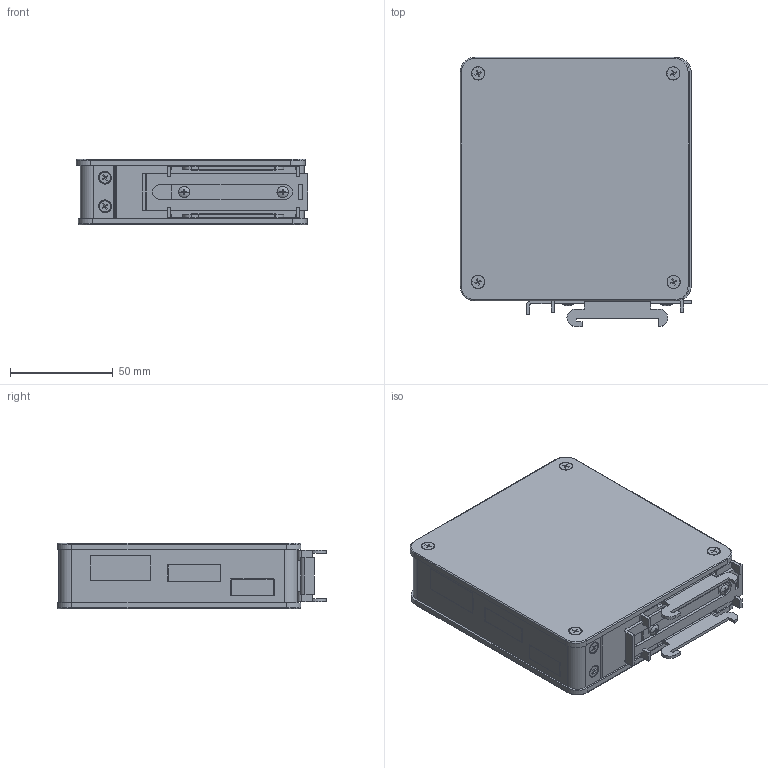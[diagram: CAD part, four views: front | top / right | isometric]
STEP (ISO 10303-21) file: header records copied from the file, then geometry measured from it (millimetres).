
FILE_DESCRIPTION (( 'STEP AP214' ), '1' );
FILE_NAME ('儂眊6蚾饜极.STEP', '2022-04-12T08:47:44', ( 'Windows User' ), ( 'P R C' ), 'SwSTEP 2.0', 'SolidWorks 2019', '' );
FILE_SCHEMA (( 'AUTOMOTIVE_DESIGN' ));
Length unit declared in the file: millimetre
Products named in the file (31): ____3.STEP; GB__T818-2000______________M3__6.STEP; ________M3.STEP; X1____.STEP; ____3.1.STEP; ____5____.STEP; GB__T819__2-1986______________23__5.STEP; ____________.STEP; 儂眊6蚾饜极.STEP; ____a.STEP; 儂眊6蚾饜极
Assembly tree (22 placements, depth 4):
  ____3.STEP
  GB__T818-2000______________M3__6.STEP
  ________M3.STEP
  ____5____.STEP
  GB__T819__2-1986______________23__5.STEP
Bounding box: 112.7 x 131 x 32 mm (x, y, z)
Volume: 52378.7 mm3; surface area: 112363.4 mm2
Topology: 39 solids, 39 shells, 1316 faces, 3251 edges, 2042 vertices
Faces by surface type: plane 831, cylinder 241, cone 128, torus 88, sphere 28
Entity records: 25262 total; most frequent: DIRECTION 4221, CARTESIAN_POINT 4212, ORIENTED_EDGE 4118, EDGE_CURVE 2059, LINE 1543, VECTOR 1543, AXIS2_PLACEMENT_3D 1339, VERTEX_POINT 1330
